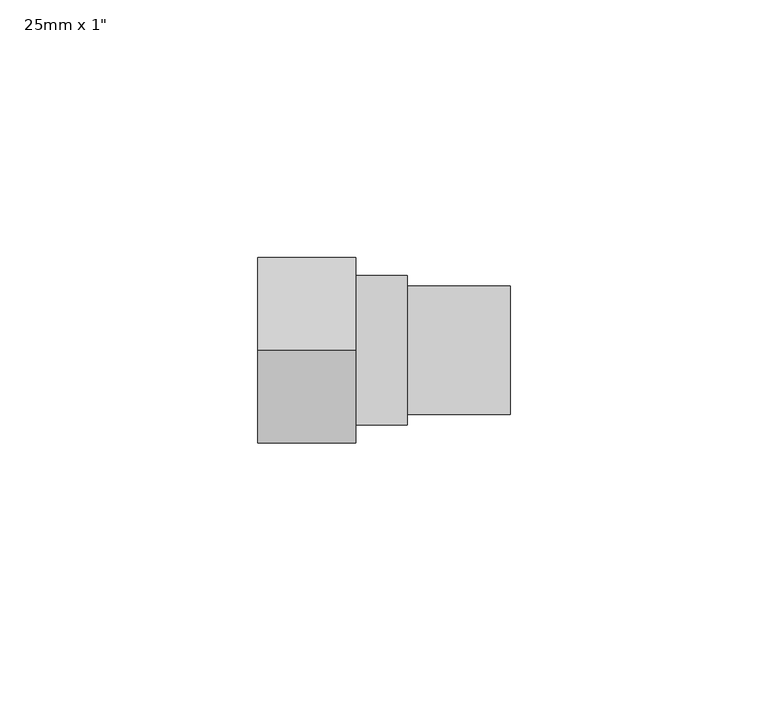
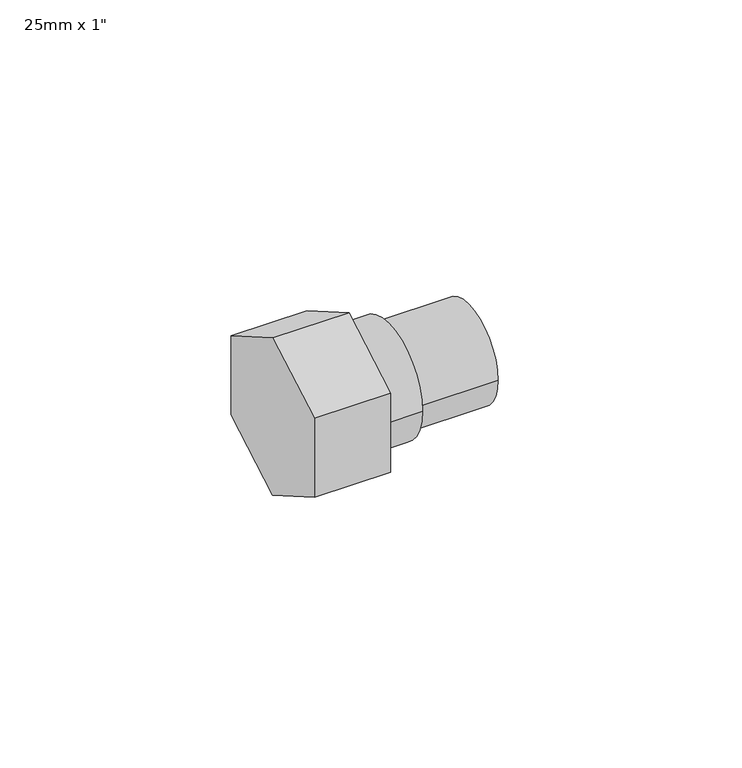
"""IFC4 building model written with IfcOpenShell, lengths in millimetres: pipe fitting geometry."""

from ifc_helpers import new_model, si_unit, point, frame, origin, origin_2d, place, context, project, spatial, polyline, circle_curve, trimmed, segment, composite_curve, outline, extrude, source, transform, mapped, element, save


def pipe_fitting_235ebf4c(model_context):
    return source(origin(), model_context, "Body", "SweptSolid", [
        extrude(outline(composite_curve([segment(trimmed(circle_curve(origin_2d(), 14.5), [point((14.5, 0.0))], [point((-14.5, 0.0))], False, "CARTESIAN"), True, "CONTINUOUS"), segment(trimmed(circle_curve(origin_2d(), 14.5), [point((-14.5, 0.0))], [point((14.5, 0.0))], False, "CARTESIAN"), True, "CONTINUOUS")], self_intersect=False)), frame((19.0, 0.0, 0.0), z_axis=(1.0, 0.0, 0.0), x_axis=(0.0, 1.0, 0.0)), (0.0, 0.0, 1.0), 10.0),
        extrude(outline(composite_curve([segment(trimmed(circle_curve(origin_2d(), 12.5), [point((12.5, 0.0))], [point((-12.5, 0.0))], False, "CARTESIAN"), True, "CONTINUOUS"), segment(trimmed(circle_curve(origin_2d(), 12.5), [point((-12.5, 0.0))], [point((12.5, 0.0))], False, "CARTESIAN"), True, "CONTINUOUS")], self_intersect=False)), frame((29.0, 0.0, 0.0), z_axis=(1.0, 0.0, 0.0), x_axis=(0.0, 1.0, 0.0)), (0.0, 0.0, 1.0), 20.0),
        extrude(outline(polyline([(0.0, 20.7846097), (18.0, 10.3923048), (18.0, -10.3923048), (0.0, -20.7846097), (-18.0, -10.3923048), (-18.0, 10.3923048), (0.0, 20.7846097)])), frame((0.0, 0.0, 0.0), z_axis=(1.0, 0.0, 0.0), x_axis=(0.0, 1.0, 0.0)), (0.0, 0.0, 1.0), 19.0),
    ])


if __name__ == "__main__":
    model = new_model("IFC4")
    model_context = context("Model", 3, world=origin())
    ifc_project = project(units=[si_unit("LENGTHUNIT", "METRE", prefix="MILLI")], contexts=[model_context])
    site = spatial("IfcSite", under=ifc_project)
    building = spatial("IfcBuilding", under=site)
    placement = place(None, origin())
    pipe_fitting_shape = pipe_fitting_235ebf4c(model_context)
    element("IfcPipeFitting", 1, ObjectType="PipeFitting_HTA_CPVC_TapConnectorsWithBrassNuts : 25mm x 1\"", at=placement, inside=building, context=model_context, shape_type="MappedRepresentation", body=[
        mapped(pipe_fitting_shape, transform((0.0, 0.0, 0.0), x_axis=(1.0, 0.0, 0.0), y_axis=(0.0, 1.0, 0.0), z_axis=(0.0, 0.0, 1.0))),
    ])
    save(model, "model.ifc")
